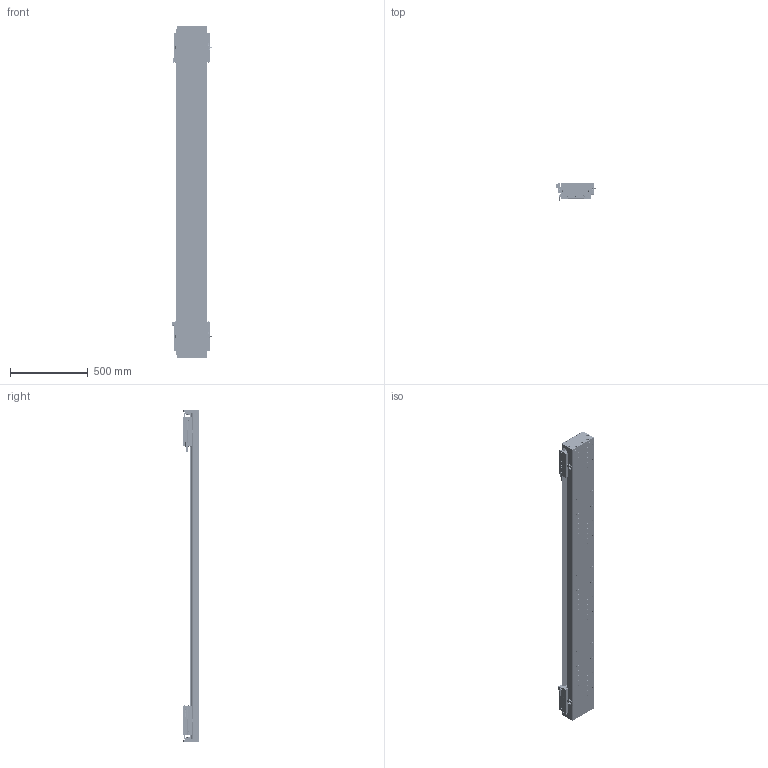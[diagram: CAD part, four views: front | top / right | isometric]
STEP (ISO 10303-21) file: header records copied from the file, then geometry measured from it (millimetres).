
FILE_DESCRIPTION (( 'STEP AP203' ), '1' );
FILE_NAME ('DA-C195-2-C2-T1640-C010-0.2 眻盄萇儂.STEP', '2025-08-14T02:06:48', ( '' ), ( '' ), 'SwSTEP 2.0', 'SolidWorks 2019', '' );
FILE_SCHEMA (( 'CONFIG_CONTROL_DESIGN' ));
Length unit declared in the file: millimetre
Products named in the file (19): DA95-HXJ-00 遣喳砎蝶-1; IU-CU195-L-00 菁釱(L2100); DA195詩湍菜輸-1; PM-T45ㄗ侂狟ㄘ-1; DA195詩湍裔啣-1; 葩璃 DA95-GT-T-00-1; MS200 棠掑喜S315-T1740-1; DA-C195-GD-DB-H-00 傷啣-1; IU-CU195-L 菁釱絳寢-1; CU195-C2賑輸-俋楷-1; DA165-GYP-00 光电感应片(默认)-1; DKW-GYP-ZJ-00 笢潔嫖萇覜茼え-1; PM-Y65嫖萇羲壽郪璃-1; DKW168-HXJ-ZJ-00 笢潔滅袉砎蝶-1; DKW-KGZ-ZJ-00 中间光电开关支架-1; DA195詩湍嶺輸-1; DA-C195-2-C2-T1640-C010-0.2 眻盄萇儂; LMT黍杅芛-1; DA195詩湍郪璃-1
Assembly tree (37 placements, depth 3):
  DA-C195-2-C2-T1640-C010-0.2 眻盄萇儂
    DA195詩湍郪璃-1
      DA195詩湍菜輸-1  x2
      DA195詩湍裔啣-1
      DA195詩湍嶺輸-1  x2
      DA95-HXJ-00 遣喳砎蝶-1  x8
      DA-C195-GD-DB-H-00 傷啣-1  x2
    IU-CU195-L 菁釱絳寢-1
      IU-CU195-L-00 菁釱(L2100)
      葩璃 DA95-GT-T-00-1  x4
    LMT黍杅芛-1  x2
    MS200 棠掑喜S315-T1740-1
    PM-T45ㄗ侂狟ㄘ-1  x4
    DA165-GYP-00 光电感应片(默认)-1  x2
    PM-Y65嫖萇羲壽郪璃-1
    DKW168-HXJ-ZJ-00 笢潔滅袉砎蝶-1
    DKW-GYP-ZJ-00 笢潔嫖萇覜茼え-1
    DKW-KGZ-ZJ-00 中间光电开关支架-1
    CU195-C2賑輸-俋楷-1  x2
Bounding box: 258.2 x 115.45 x 2140 mm (x, y, z)
Volume: 13841462.5 mm3; surface area: 3974102.3 mm2
Topology: 114 solids, 242 shells, 6817 faces, 17855 edges, 11073 vertices
Faces by surface type: cylinder 3116, plane 2617, cone 916, torus 88, sphere 72, bspline 8
Entity records: 141135 total; most frequent: CARTESIAN_POINT 36571, ORIENTED_EDGE 21542, DIRECTION 20994, EDGE_CURVE 10771, AXIS2_PLACEMENT_3D 7713, VERTEX_POINT 6960, VECTOR 5568, LINE 5568
